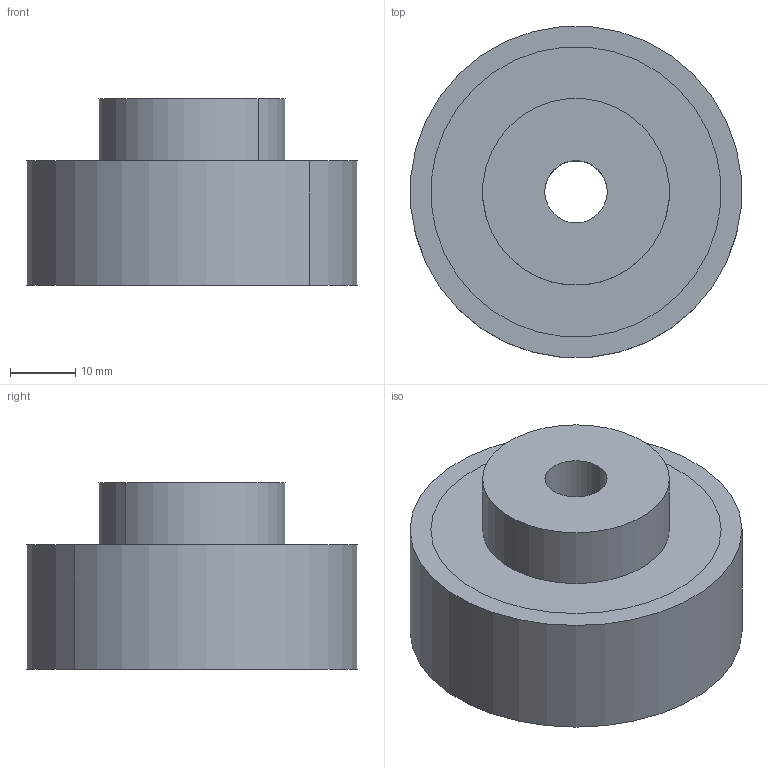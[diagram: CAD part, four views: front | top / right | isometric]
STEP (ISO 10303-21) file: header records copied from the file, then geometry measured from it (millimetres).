
FILE_DESCRIPTION(/* description */ ('VariCAD 2010-3.03 AP-214'),/* implementation_level */ '2;1');
FILE_NAME(/* name */ '0353-80-20',/* time_stamp */ '2011-06-29T16:09:42-06:00',/* author */ (''),/* organization */ (''),/* preprocessor_version */ 'ST-DEVELOPER v12',/* originating_system */ 'VariCAD 2010-3.03; kernel version (20100102)',/* authorisation */ '');
FILE_SCHEMA (('AUTOMOTIVE_DESIGN'));
Length unit declared in the file: millimetre
Products named in the file (1): Part
Bounding box: 50.61 x 50.61 x 28.57 mm (x, y, z)
Volume: 42683.4 mm3; surface area: 8661.5 mm2
Topology: 1 solids, 1 shells, 13 faces, 26 edges, 18 vertices
Faces by surface type: cylinder 8, plane 5
Entity records: 449 total; most frequent: DIRECTION 74, CARTESIAN_POINT 59, ORIENTED_EDGE 52, AXIS2_PLACEMENT_3D 33, EDGE_CURVE 26, EDGE_LOOP 18, CIRCLE 18, VERTEX_POINT 18
